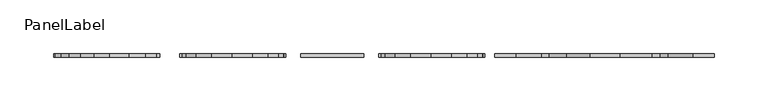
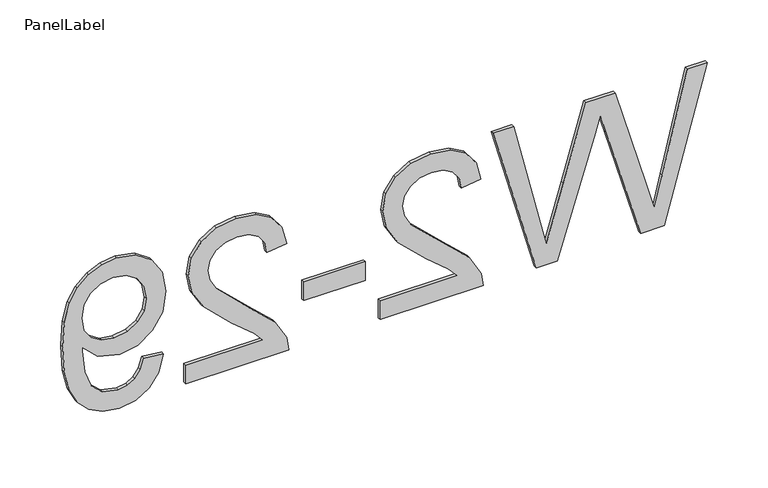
"""IFC4 building model written with IfcOpenShell, lengths in millimetres: fastener geometry, PanelLabel : Miranda."""

from ifc_helpers import new_model, si_unit, frame, origin, place, context, project, spatial, polyline, outline, extrude, source, transform, mapped, element, save


def panellabel_7661e412(model_context):
    return source(origin(), model_context, "Body", "SweptSolid", [
        extrude(outline(polyline([(1310.9113766, 268.5683654), (1460.9667612, 309.4892308), (1460.9667612, 290.1461538), (1362.3463766, 266.4069231), (1331.9030112, 259.08), (1358.8294535, 251.2401923), (1460.9667612, 221.4928846), (1460.9667612, 193.6139423), (1386.9282035, 171.9995192), (1331.9030112, 155.9169231), (1361.4671458, 148.8098077), (1460.9667612, 124.8507692), (1460.9667612, 105.5076923), (1310.9113766, 146.4651923), (1310.9113766, 166.5043269), (1426.6767612, 202.4795192), (1442.8326266, 207.4984615), (1423.3796458, 213.1401923), (1310.9113766, 245.9281731), (1310.9113766, 268.5683654)])), frame((0.0, 100.80625, 0.0), z_axis=(0.0, 1.0, 0.0), x_axis=(0.0, 0.0, 1.0)), (0.0, 0.0, 1.0), 3.175),
        extrude(outline(polyline([(1329.6682997, -2.3446154), (1310.9113766, -2.3446154), (1310.9113766, 96.1292308), (1323.8433958, 94.1143269), (1343.7543093, 82.7209615), (1365.4969535, 59.2381731), (1396.7462804, 26.8531731), (1407.5168573, 20.7809856), (1417.9943573, 18.7569231), (1427.3865569, 20.6665024), (1435.1943093, 26.3952404), (1440.4559559, 35.2012861), (1442.2098381, 46.3427885), (1440.4971698, 58.0429688), (1435.359165, 67.1329327), (1427.1988045, 72.9990505), (1416.4190689, 75.0276923), (1418.7636843, 93.7846154), (1436.9069775, 89.2373438), (1450.1595497, 79.4055288), (1458.2649583, 64.8020553), (1460.9667612, 45.9398077), (1457.9627227, 26.9401803), (1448.9506073, 12.3641827), (1435.4873862, 3.0910457), (1419.1300304, 0.0), (1401.3439247, 3.33375), (1382.9533477, 14.4157212), (1357.254165, 41.2872115), (1339.211617, 62.865), (1329.6682997, 71.3275962), (1329.6682997, -2.3446154)])), frame((0.0, 100.80625, 0.0), z_axis=(0.0, 1.0, 0.0), x_axis=(0.0, 0.0, 1.0)), (0.0, 0.0, 1.0), 3.175),
        extrude(outline(polyline([(-75.0276923, 103.98125), (-16.4123077, 103.98125), (-16.4123077, 100.80625), (-75.0276923, 100.80625), (-75.0276923, 103.98125)])), frame((0.0, 0.0, 1355.4590689), z_axis=(0.0, 0.0, 1.0), x_axis=(1.0, 0.0, 0.0)), (0.0, 0.0, 1.0), 18.7569231),
        extrude(outline(polyline([(1329.6682997, -187.5692308), (1310.9113766, -187.5692308), (1310.9113766, -89.0953846), (1323.8433958, -91.1102885), (1343.7543093, -102.5036538), (1365.4969535, -125.9864423), (1396.7462804, -158.3714423), (1407.5168573, -164.4436298), (1417.9943573, -166.4676923), (1427.3865569, -164.558113), (1435.1943093, -158.829375), (1440.4559559, -150.0233293), (1442.2098381, -138.8818269), (1440.4971698, -127.1816466), (1435.359165, -118.0916827), (1427.1988045, -112.2255649), (1416.4190689, -110.1969231), (1418.7636843, -91.44), (1436.9069775, -95.9872716), (1450.1595497, -105.8190865), (1458.2649583, -120.4225601), (1460.9667612, -139.2848077), (1457.9627227, -158.2844351), (1448.9506073, -172.8604327), (1435.4873862, -182.1335697), (1419.1300304, -185.2246154), (1401.3439247, -181.8908654), (1382.9533477, -170.8088942), (1357.254165, -143.9374038), (1339.211617, -122.3596154), (1329.6682997, -113.8970192), (1329.6682997, -187.5692308)])), frame((0.0, 100.80625, 0.0), z_axis=(0.0, 1.0, 0.0), x_axis=(0.0, 0.0, 1.0)), (0.0, 0.0, 1.0), 3.175),
        extrude(outline(polyline([(1348.4252227, -208.6707692), (1350.7698381, -227.4276923), (1340.122903, -230.6332212), (1332.8738285, -235.8536538), (1328.7112203, -242.9607692), (1327.3236843, -251.8263462), (1330.8955593, -267.0113942), (1340.4388766, -277.3057212), (1356.7412804, -283.4420192), (1378.502242, -286.1529808), (1382.1657035, -286.0430769), (1367.9514727, -271.0412019), (1362.492915, -250.4708654), (1365.826665, -233.3670793), (1375.827915, -219.1299519), (1391.2785641, -209.5271034), (1410.9605112, -206.3261538), (1431.2927227, -209.6828005), (1447.2287804, -219.7527404), (1457.532266, -234.8782572), (1460.9667612, -253.4016346), (1459.0068093, -267.3914784), (1453.1269535, -280.1265865), (1443.6202708, -290.778101), (1430.7798381, -298.5171635), (1413.030367, -303.2292909), (1388.7965689, -304.8), (1363.1019655, -303.2338702), (1343.2414247, -298.5354808), (1328.3173982, -290.7460457), (1317.4323381, -279.9067788), (1310.7831554, -266.4847716), (1308.5667612, -250.9471154), (1311.1815569, -234.9103125), (1319.0259439, -222.1156731), (1331.6053549, -213.1676683), (1348.4252227, -208.6707692)]), holes=[polyline([(1411.4001266, -286.0430769), (1424.1123381, -284.0190144), (1433.8937804, -277.9468269), (1440.1308237, -268.5225721), (1442.2098381, -256.4423077), (1439.9705472, -243.9132692), (1433.2526747, -233.8753846), (1422.9720857, -227.2811538), (1410.0446458, -225.0830769), (1398.4543694, -227.1620913), (1389.2545016, -233.3991346), (1383.251004, -243.1897356), (1381.2498381, -255.9294231), (1383.251004, -267.9135216), (1389.2545016, -277.5621635), (1398.7932396, -283.9228486), (1411.4001266, -286.0430769)])]), frame((0.0, 100.80625, 0.0), z_axis=(0.0, 1.0, 0.0), x_axis=(0.0, 0.0, 1.0)), (0.0, 0.0, 1.0), 3.175),
    ])


if __name__ == "__main__":
    model = new_model("IFC4")
    model_context = context("Model", 3, world=origin())
    ifc_project = project(units=[si_unit("LENGTHUNIT", "METRE", prefix="MILLI")], contexts=[model_context])
    site = spatial("IfcSite", under=ifc_project)
    building = spatial("IfcBuilding", under=site)
    placement = place(None, origin())
    panellabel_shape = panellabel_7661e412(model_context)
    element("IfcFastener", 1, ObjectType="PanelLabel : Miranda", at=placement, inside=building, context=model_context, shape_type="MappedRepresentation", body=[
        mapped(panellabel_shape, transform((0.0, 0.0, 0.0), x_axis=(1.0, 0.0, 0.0), y_axis=(0.0, 1.0, 0.0), z_axis=(0.0, 0.0, 1.0))),
    ])
    save(model, "model.ifc")
